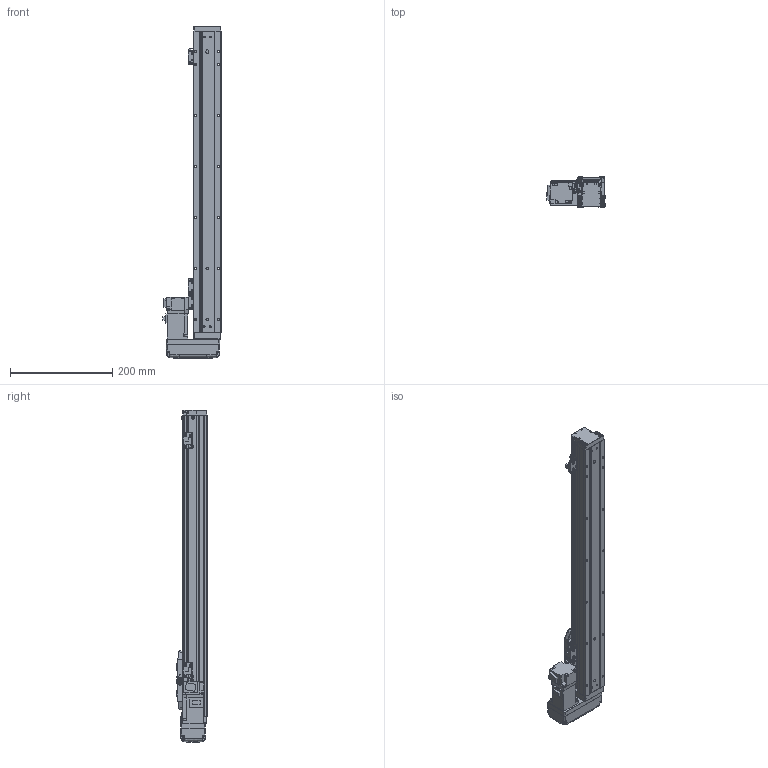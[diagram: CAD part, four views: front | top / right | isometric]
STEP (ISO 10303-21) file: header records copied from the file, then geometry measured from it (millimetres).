
FILE_DESCRIPTION (( 'STEP AP203' ), '1' );
FILE_NAME ('GTH5-450-BL-M10-C4.step', '2022-09-23T00:44:28', ( '微软用户' ), ( '微软中国' ), 'SwSTEP 2.0', 'SolidWorks 2020', '' );
FILE_SCHEMA (( 'CONFIG_CONTROL_DESIGN' ));
Length unit declared in the file: millimetre
Products named in the file (19): GTH50-004; GTH50-023; HG-KR13; GBT 70.3-M3℅6; GBT 70.1-M3℅6; GTH50-027-1_BTHA50-027-2; BTH-M3X5X6; GBT96.1-2002 3×0.8; GTH50-026; GTH50-001_450; GTH50-024; GTH5-450-BL-M10-C4; GBT 70.1-M4×16; GBT 70.1-M2.5×6; GTH50-003; GTH50-028; GTH50-006; GTH50-013; GTH50-022-1
Assembly tree (57 placements, depth 2):
  GTH5-450-BL-M10-C4
    GTH50-006
    GTH50-004
    GBT 70.3-M3℅6  x4
    BTH-M3X5X6  x8
    GTH50-001_450
    GBT 70.1-M4×16  x8
    GTH50-003
    GTH50-013
    GTH50-023  x3
    GBT 70.1-M3℅6  x12
    GBT96.1-2002 3×0.8  x6
    GTH50-024  x3
    GBT 70.1-M2.5×6  x2
    GTH50-028  x2
    GTH50-022-1
    HG-KR13
    GTH50-027-1_BTHA50-027-2
    GTH50-026
Bounding box: 113.8 x 60 x 650 mm (x, y, z)
Volume: 1510012.9 mm3; surface area: 268424.5 mm2
Topology: 59 solids, 59 shells, 2156 faces, 5004 edges, 3068 vertices
Faces by surface type: plane 1142, cylinder 585, cone 219, torus 162, bspline 40, sphere 8
Entity records: 40012 total; most frequent: CARTESIAN_POINT 7923, DIRECTION 6157, ORIENTED_EDGE 5922, EDGE_CURVE 2961, AXIS2_PLACEMENT_3D 2140, VECTOR 1877, LINE 1877, VERTEX_POINT 1870
